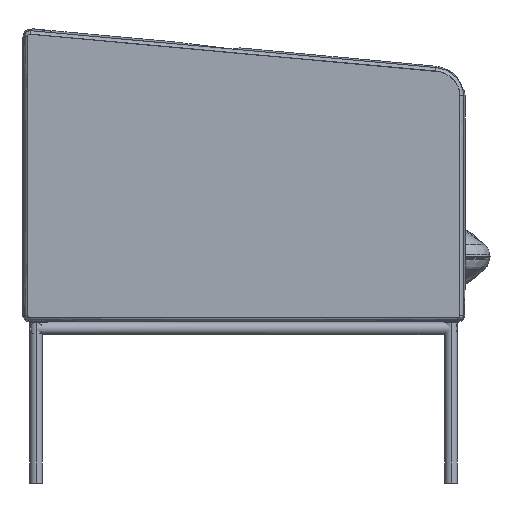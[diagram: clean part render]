
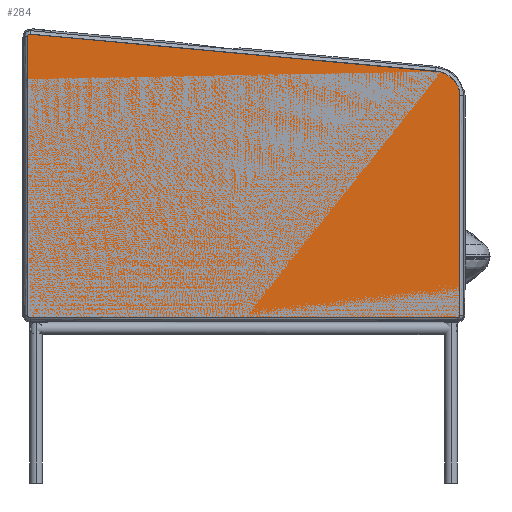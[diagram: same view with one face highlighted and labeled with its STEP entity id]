
A CAD part, left-side view. The second image highlights one B-rep face of the part: STEP entity #284.
In plain terms, the highlighted planar face has unit normal (1, 0, 0).
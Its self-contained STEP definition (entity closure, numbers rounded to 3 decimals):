
#284=ADVANCED_FACE('',(#426),#1775,.T.);
#426=FACE_OUTER_BOUND('',#568,.T.);
#568=EDGE_LOOP('',(#1139));
#1139=ORIENTED_EDGE('',*,*,#1464,.T.);
#1464=EDGE_CURVE('',#1732,#1732,#2040,.T.);
#1732=VERTEX_POINT('',#20308);
#1775=PLANE('',#2193);
#2040=B_SPLINE_CURVE_WITH_KNOTS('',3,(#20309,#20310,#20311,#20312,#20313,
#20314,#20315,#20316,#20317,#20318,#20319,#20320,#20321,#20322,#20323,#20324,
#20325,#20326,#20327,#20328,#20329,#20330,#20331,#20332,#20333,#20334,#20335,
#20336,#20337,#20338,#20339,#20340,#20341,#20342,#20343,#20344,#20345,#20346),
 .UNSPECIFIED.,.T.,.F.,(4,1,1,1,3,3,1,1,1,1,3,3,1,1,1,3,3,1,1,1,3,4),(0.,
1.515,3.142,4.746,6.213,456.759,
457.564,458.39,460.038,461.71,463.395,
1120.012,1135.468,1151.885,1168.09,1183.069,
1537.529,1538.996,1540.601,1542.227,1543.743,
2233.743),.UNSPECIFIED.);
#2193=AXIS2_PLACEMENT_3D('',#20307,#2244,$);
#2244=DIRECTION('',(1.,0.,0.));
#20307=CARTESIAN_POINT('',(7494.243,-765.538,221.479));
#20308=CARTESIAN_POINT('',(7494.243,-1.436,267.383));
#20309=CARTESIAN_POINT('',(7494.243,-1.436,267.383));
#20310=CARTESIAN_POINT('',(7494.243,-0.89,267.383));
#20311=CARTESIAN_POINT('',(7494.243,0.243,267.583));
#20312=CARTESIAN_POINT('',(7494.243,1.659,268.446));
#20313=CARTESIAN_POINT('',(7494.243,2.528,269.676));
#20314=CARTESIAN_POINT('',(7494.243,2.713,270.579));
#20315=CARTESIAN_POINT('',(7494.243,2.713,271.01));
#20316=CARTESIAN_POINT('',(7494.243,2.713,421.191));
#20317=CARTESIAN_POINT('',(7494.243,2.713,571.375));
#20318=CARTESIAN_POINT('',(7494.243,2.713,721.555));
#20319=CARTESIAN_POINT('',(7494.243,2.713,721.791));
#20320=CARTESIAN_POINT('',(7494.243,2.659,722.268));
#20321=CARTESIAN_POINT('',(7494.243,2.336,723.198));
#20322=CARTESIAN_POINT('',(7494.243,1.514,724.254));
#20323=CARTESIAN_POINT('',(7494.243,-0.033,725.091));
#20324=CARTESIAN_POINT('',(7494.243,-1.261,725.218));
#20325=CARTESIAN_POINT('',(7494.243,-1.863,725.163));
#20326=CARTESIAN_POINT('',(7494.243,-219.837,705.361));
#20327=CARTESIAN_POINT('',(7494.243,-437.815,685.559));
#20328=CARTESIAN_POINT('',(7494.243,-655.788,665.757));
#20329=CARTESIAN_POINT('',(7494.243,-661.,665.285));
#20330=CARTESIAN_POINT('',(7494.243,-671.569,662.536));
#20331=CARTESIAN_POINT('',(7494.243,-684.954,653.318));
#20332=CARTESIAN_POINT('',(7494.243,-693.64,640.19));
#20333=CARTESIAN_POINT('',(7494.243,-695.588,630.247));
#20334=CARTESIAN_POINT('',(7494.243,-695.585,625.47));
#20335=CARTESIAN_POINT('',(7494.243,-695.585,507.317));
#20336=CARTESIAN_POINT('',(7494.243,-695.585,389.162));
#20337=CARTESIAN_POINT('',(7494.243,-695.585,271.01));
#20338=CARTESIAN_POINT('',(7494.243,-695.585,270.579));
#20339=CARTESIAN_POINT('',(7494.243,-695.4,269.676));
#20340=CARTESIAN_POINT('',(7494.243,-694.53,268.446));
#20341=CARTESIAN_POINT('',(7494.243,-693.115,267.583));
#20342=CARTESIAN_POINT('',(7494.243,-691.982,267.383));
#20343=CARTESIAN_POINT('',(7494.243,-691.436,267.383));
#20344=CARTESIAN_POINT('',(7494.243,-461.437,267.383));
#20345=CARTESIAN_POINT('',(7494.243,-231.434,267.383));
#20346=CARTESIAN_POINT('',(7494.243,-1.436,267.383));
